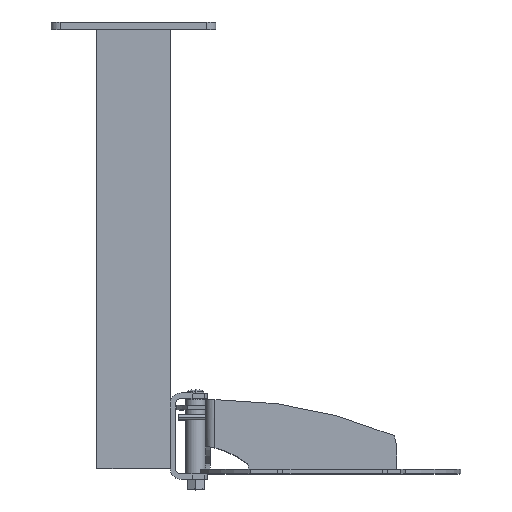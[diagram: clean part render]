
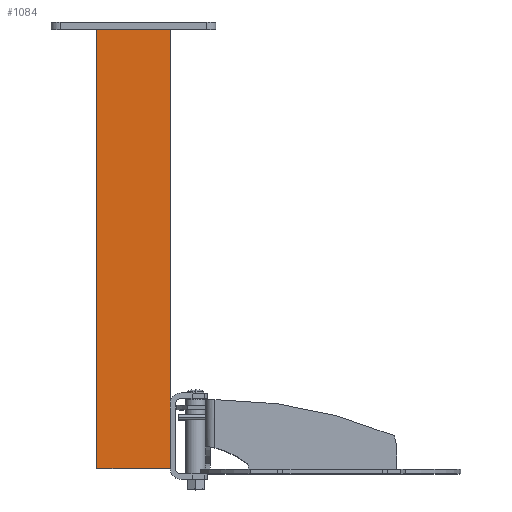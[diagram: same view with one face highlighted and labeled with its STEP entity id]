
A CAD part, top view. The second image highlights one B-rep face of the part: STEP entity #1084.
In plain terms, the highlighted planar face has unit normal (0, 0, 1).
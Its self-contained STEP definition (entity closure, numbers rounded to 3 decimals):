
#953=DIRECTION('',(0.,-1.,0.));
#954=VECTOR('',#953,80.);
#955=CARTESIAN_POINT('',(0.,40.,20.));
#956=LINE('',#955,#954);
#965=DIRECTION('',(-1.,0.,0.));
#966=VECTOR('',#965,480.);
#967=CARTESIAN_POINT('',(0.,-40.,20.));
#968=LINE('',#967,#966);
#977=DIRECTION('',(-1.,0.,0.));
#978=VECTOR('',#977,480.);
#979=CARTESIAN_POINT('',(0.,40.,20.));
#980=LINE('',#979,#978);
#993=DIRECTION('',(0.,-1.,0.));
#994=VECTOR('',#993,80.);
#995=CARTESIAN_POINT('',(-480.,40.,20.));
#996=LINE('',#995,#994);
#997=CARTESIAN_POINT('',(0.,-40.,20.));
#999=VERTEX_POINT('',#997);
#1003=CARTESIAN_POINT('',(0.,40.,20.));
#1004=VERTEX_POINT('',#1003);
#1005=CARTESIAN_POINT('',(-480.,-40.,20.));
#1007=VERTEX_POINT('',#1005);
#1011=CARTESIAN_POINT('',(-480.,40.,20.));
#1012=VERTEX_POINT('',#1011);
#1072=CARTESIAN_POINT('',(0.,40.,20.));
#1073=DIRECTION('',(0.,0.,1.));
#1074=DIRECTION('',(0.,-1.,0.));
#1075=AXIS2_PLACEMENT_3D('',#1072,#1073,#1074);
#1076=PLANE('',#1075);
#1077=ORIENTED_EDGE('',*,*,#1020,.T.);
#1078=ORIENTED_EDGE('',*,*,#1039,.T.);
#1080=ORIENTED_EDGE('',*,*,#1079,.F.);
#1081=ORIENTED_EDGE('',*,*,#1064,.F.);
#1082=EDGE_LOOP('',(#1077,#1078,#1080,#1081));
#1083=FACE_OUTER_BOUND('',#1082,.F.);
#1020=EDGE_CURVE('',#1004,#999,#956,.T.);
#1039=EDGE_CURVE('',#999,#1007,#968,.T.);
#1064=EDGE_CURVE('',#1004,#1012,#980,.T.);
#1079=EDGE_CURVE('',#1012,#1007,#996,.T.);
#1084=ADVANCED_FACE('',(#1083),#1076,.T.);
